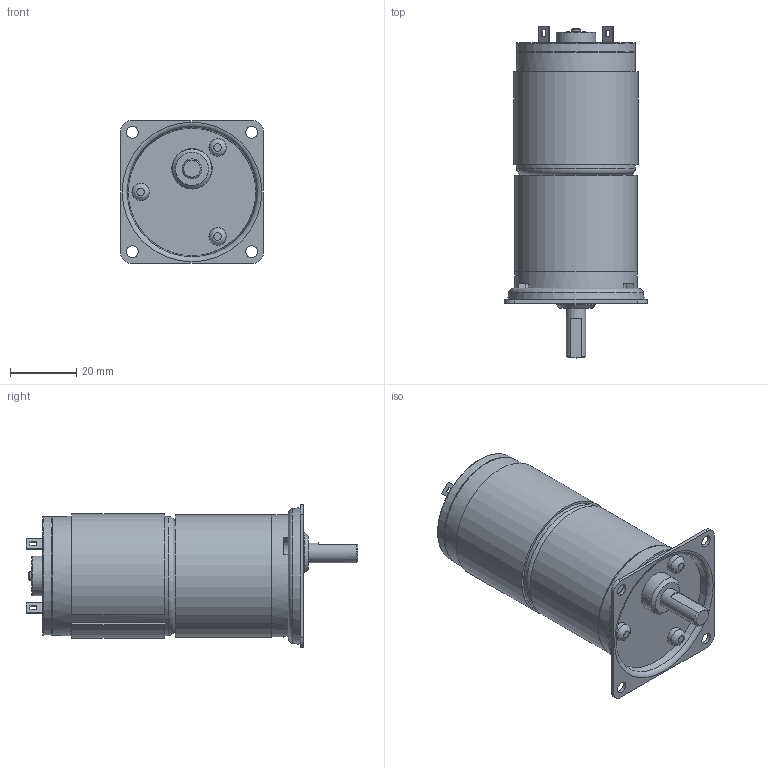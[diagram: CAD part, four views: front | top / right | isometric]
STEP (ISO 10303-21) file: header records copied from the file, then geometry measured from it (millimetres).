
FILE_DESCRIPTION((''),'2;1');
FILE_NAME('C:\Documents and Settings\SSEGAWA\デスクトップ\TP-3640B-PKS-6.STP','2013-07-18T17:28:25',('SSEGAWA'),(''),'Autodesk Inventor 2010','Autodesk Inventor 2010','');
FILE_SCHEMA(('CONFIG_CONTROL_DESIGN'));
Length unit declared in the file: millimetre
Products named in the file (1): tp_3640bce_pks_6_Shrinkwrap_1
Bounding box: 43 x 100.2 x 43 mm (x, y, z)
Volume: 83071.8 mm3; surface area: 16064.1 mm2
Topology: 10 solids, 10 shells, 136 faces, 302 edges, 200 vertices
Faces by surface type: plane 73, bspline 27, cylinder 26, cone 5, torus 5
Full cylindrical faces by diameter (mm): 2.5 x1, 4 x1, 4.5 x1, 5.3 x3, 6 x1, 12 x2, 12.2 x1, 35.6 x1, 36 x2, 36.6 x1, 37 x2
Entity records: 3883 total; most frequent: CARTESIAN_POINT 1024, DIRECTION 543, ORIENTED_EDGE 452, EDGE_CURVE 226, EDGE_LOOP 211, AXIS2_PLACEMENT_3D 209, VERTEX_POINT 173, STYLED_ITEM 146
